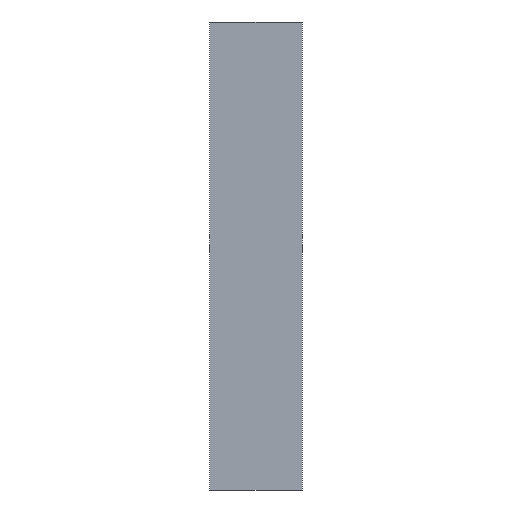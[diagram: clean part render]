
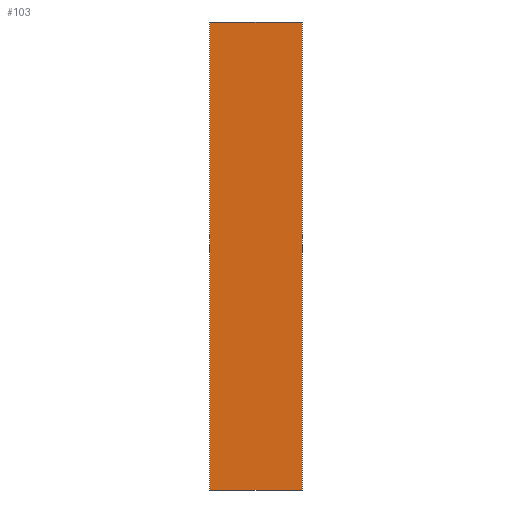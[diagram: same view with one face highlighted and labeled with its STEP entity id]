
A CAD part, front view. The second image highlights one B-rep face of the part: STEP entity #103.
In plain terms, the highlighted planar face has unit normal (0, -1, 0).
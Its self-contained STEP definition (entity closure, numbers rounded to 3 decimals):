
#2 = VERTEX_POINT ( 'NONE', #3 ) ;
#3 = CARTESIAN_POINT ( 'NONE',  ( 29.8, 0., 0. ) ) ;
#4 = DIRECTION ( 'NONE',  ( 0., 0., -1. ) ) ;
#6 = DIRECTION ( 'NONE',  ( 1., 0., 0. ) ) ;
#7 = EDGE_CURVE ( 'NONE', #137, #126, #191, .T. ) ;
#8 = CARTESIAN_POINT ( 'NONE',  ( 29.8, 0., 0. ) ) ;
#19 = ORIENTED_EDGE ( 'NONE', *, *, #170, .F. ) ;
#24 = DIRECTION ( 'NONE',  ( 0., 0., 1. ) ) ;
#30 = ORIENTED_EDGE ( 'NONE', *, *, #144, .F. ) ;
#33 = CARTESIAN_POINT ( 'NONE',  ( 0., 0., 0. ) ) ;
#36 = DIRECTION ( 'NONE',  ( 0., -1., 0. ) ) ;
#39 = AXIS2_PLACEMENT_3D ( 'NONE', #128, #36, #70 ) ;
#40 = DIRECTION ( 'NONE',  ( -1., 0., 0. ) ) ;
#57 = LINE ( 'NONE', #101, #179 ) ;
#68 = VECTOR ( 'NONE', #40, 1000. ) ;
#70 = DIRECTION ( 'NONE',  ( 0., 0., -1. ) ) ;
#78 = VERTEX_POINT ( 'NONE', #166 ) ;
#79 = EDGE_CURVE ( 'NONE', #2, #78, #87, .T. ) ;
#82 = ORIENTED_EDGE ( 'NONE', *, *, #7, .F. ) ;
#87 = LINE ( 'NONE', #8, #115 ) ;
#95 = CARTESIAN_POINT ( 'NONE',  ( 0., 0., -151. ) ) ;
#101 = CARTESIAN_POINT ( 'NONE',  ( 0., 0., 0. ) ) ;
#103 = ADVANCED_FACE ( 'NONE', ( #181 ), #130, .T. ) ;
#105 = CARTESIAN_POINT ( 'NONE',  ( 0., 0., -151. ) ) ;
#111 = CARTESIAN_POINT ( 'NONE',  ( 0., 0., 0. ) ) ;
#115 = VECTOR ( 'NONE', #4, 1000. ) ;
#125 = ORIENTED_EDGE ( 'NONE', *, *, #79, .F. ) ;
#126 = VERTEX_POINT ( 'NONE', #33 ) ;
#128 = CARTESIAN_POINT ( 'NONE',  ( 0., 0., -151. ) ) ;
#130 = PLANE ( 'NONE',  #39 ) ;
#135 = VECTOR ( 'NONE', #24, 1000. ) ;
#137 = VERTEX_POINT ( 'NONE', #105 ) ;
#144 = EDGE_CURVE ( 'NONE', #126, #2, #57, .T. ) ;
#166 = CARTESIAN_POINT ( 'NONE',  ( 29.8, 0., -151. ) ) ;
#170 = EDGE_CURVE ( 'NONE', #78, #137, #185, .T. ) ;
#179 = VECTOR ( 'NONE', #6, 1000. ) ;
#180 = EDGE_LOOP ( 'NONE', ( #82, #19, #125, #30 ) ) ;
#181 = FACE_OUTER_BOUND ( 'NONE', #180, .T. ) ;
#185 = LINE ( 'NONE', #95, #68 ) ;
#191 = LINE ( 'NONE', #111, #135 ) ;
